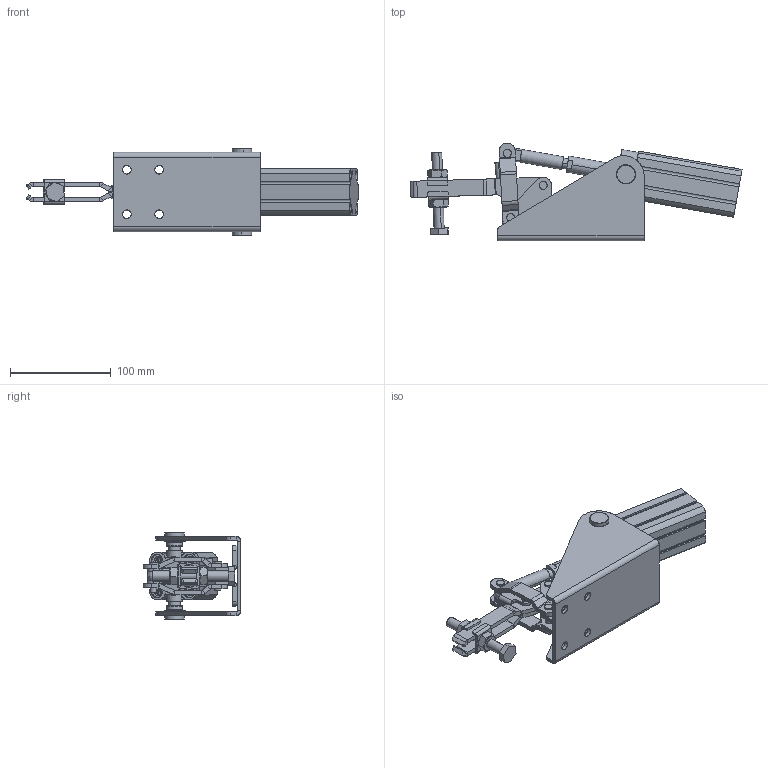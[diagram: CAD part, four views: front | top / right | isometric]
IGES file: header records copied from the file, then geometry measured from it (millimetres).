
Start section: SolidWorks IGES file using analytic representation for surfaces
Global section: file name: C:\Projetos\Grampos\KF-011 P\KF-011 DB P\KF-011 DB P.IGS; native system: SolidWorks 2013; preprocessor: SolidWorks 2013; author: Ricardo; date: 140828.141727; units: millimetre
Bounding box: 328.73 x 96.73 x 86.5 mm (x, y, z)
Surface area: 173734.2 mm2 (no closed solid volume)
Topology: 0 solids, 0 shells, 766 faces, 12012 edges, 11994 vertices
Faces by surface type: revolution 417, bspline 349
